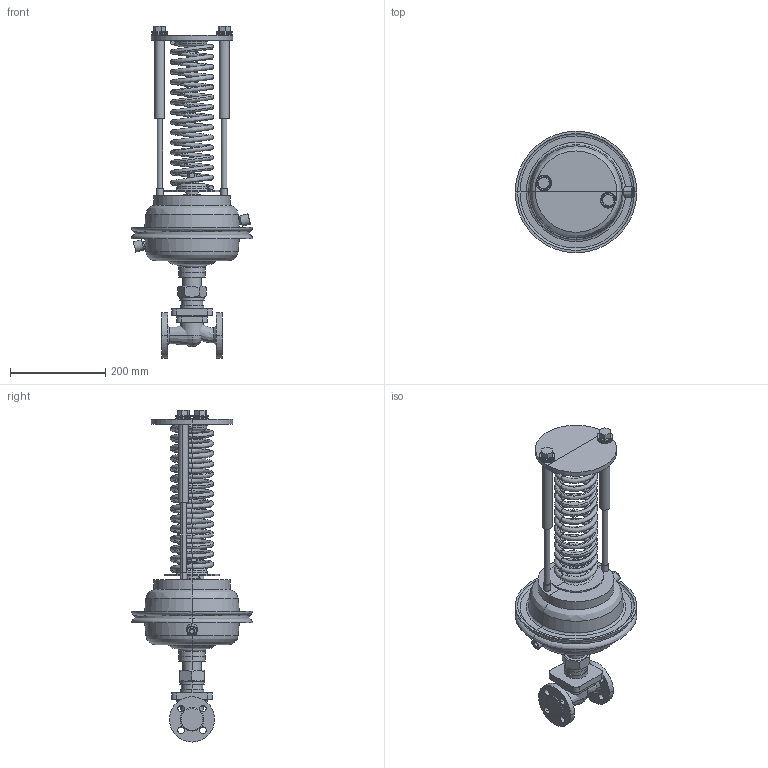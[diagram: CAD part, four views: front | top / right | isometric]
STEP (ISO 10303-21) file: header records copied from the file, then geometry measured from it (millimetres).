
FILE_DESCRIPTION(/* description */ (''),/* implementation_level */ '2;1');
FILE_NAME(/* name */ 'ETM_Регулятордавления_УРРД_НЗ_РД_DN15',/* time_stamp */ '2026-04-18T14:55:01+03:00',/* author */ (''),/* organization */ (''),/* preprocessor_version */ 'ST-DEVELOPER v20',/* originating_system */ '',/* authorisation */ '');
FILE_SCHEMA (('AP242_MANAGED_MODEL_BASED_3D_ENGINEERING_MIM_LF { 1 0 10303 442 1 1 4 }'));
Length unit declared in the file: millimetre
Products named in the file (13): TopLevelAssembly; Выдавливание; Переход; Выдавливание_
1; Переход_1; Переход_2; Переход_3; Выдавливание_
2; Объемная геометрия 
присоединена; Выдавливание_
3; Объемная геометрия 
присоединена_1; Выдавливание_
4; Пружина желтая
Assembly tree (12 placements, depth 2):
  TopLevelAssembly
    Выдавливание
    Переход
    Выдавливание_
1
    Переход_1
    Переход_2
    Переход_3
    Выдавливание_
2
    Объемная геометрия 
присоединена
    Выдавливание_
3
    Объемная геометрия 
присоединена_1
    Выдавливание_
4
    Пружина желтая
Bounding box: 255.07 x 255.07 x 696.71 mm (x, y, z)
Volume: 5531017.3 mm3; surface area: 618650.1 mm2
Topology: 33 solids, 33 shells, 518 faces, 1066 edges, 552 vertices
Faces by surface type: plane 191, bspline 191, cylinder 126, cone 10
Entity records: 16909 total; most frequent: CARTESIAN_POINT 5879, DIRECTION 2328, ORIENTED_EDGE 2040, EDGE_CURVE 1020, AXIS2_PLACEMENT_3D 980, CIRCLE 627, VERTEX_POINT 552, EDGE_LOOP 538
